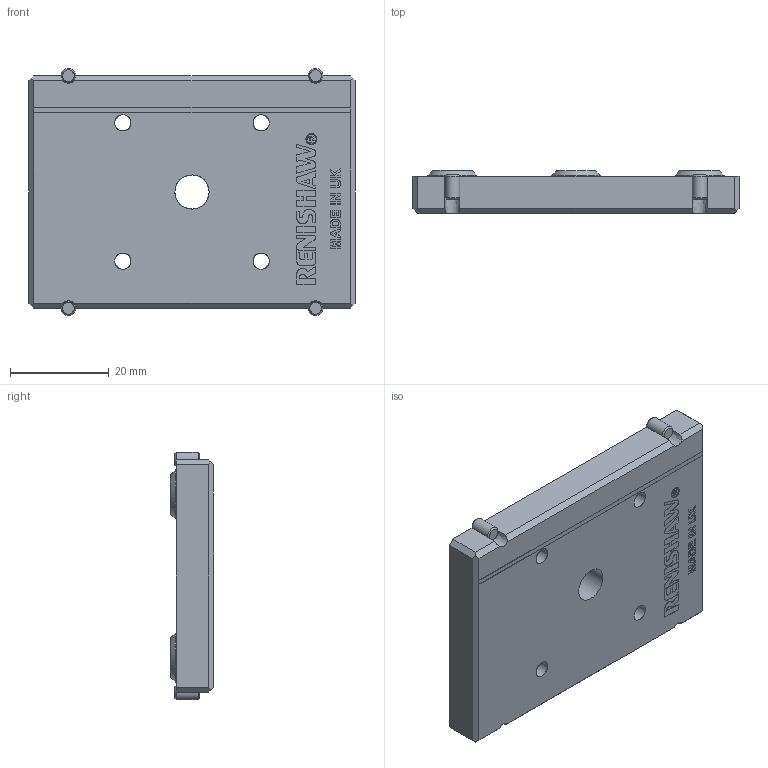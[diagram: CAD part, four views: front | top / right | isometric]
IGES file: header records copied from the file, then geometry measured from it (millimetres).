
Global section: file name: E:\Lightweight models\A-8003-0442  Flatness Kit\LA-8003-0258  Base (50)\LA-8003-0258-A.igs; native system: NX V7.5; preprocessor: SIEMENS PLM Software NX 7.5; date: 20150331.114739; units: millimetre
Bounding box: 66 x 8.7 x 50 mm (x, y, z)
Surface area: 10091.4 mm2 (no closed solid volume)
Topology: 0 solids, 0 shells, 344 faces, 2143 edges, 2118 vertices
Faces by surface type: bspline 344
